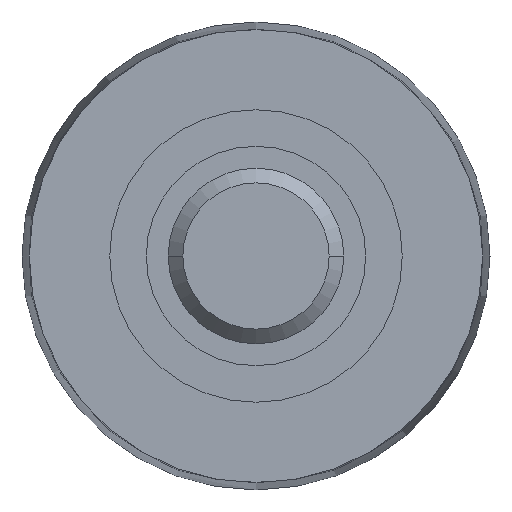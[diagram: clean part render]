
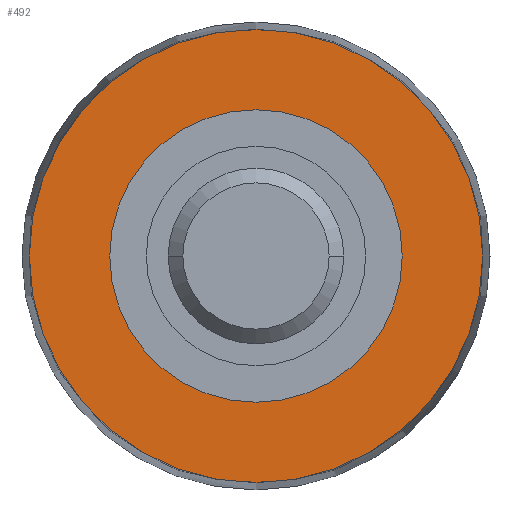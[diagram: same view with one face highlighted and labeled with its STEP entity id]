
A CAD part, left-side view. The second image highlights one B-rep face of the part: STEP entity #492.
In plain terms, the highlighted planar face has unit normal (-1, 0, 0).
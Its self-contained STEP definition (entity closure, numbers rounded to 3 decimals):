
#32 = CARTESIAN_POINT ( 'NONE',  ( -103., 10., 0. ) ) ;
#33 = CARTESIAN_POINT ( 'NONE',  ( -103., 0., 15.5 ) ) ;
#37 = CARTESIAN_POINT ( 'NONE',  ( -103., -10., 0. ) ) ;
#46 = DIRECTION ( 'NONE',  ( 0., 1., 0. ) ) ;
#47 = CARTESIAN_POINT ( 'NONE',  ( -103., 0., -15.5 ) ) ;
#48 = DIRECTION ( 'NONE',  ( 1., 0., 0. ) ) ;
#50 = CARTESIAN_POINT ( 'NONE',  ( -103., 0., 0. ) ) ;
#71 = AXIS2_PLACEMENT_3D ( 'NONE', #639, #640, #641 ) ;
#74 = AXIS2_PLACEMENT_3D ( 'NONE', #654, #655, #656 ) ;
#106 = EDGE_CURVE ( 'NONE', #370, #372, #282, .T. ) ;
#114 = EDGE_CURVE ( 'NONE', #372, #370, #269, .T. ) ;
#183 = CIRCLE ( 'NONE', #74, 15.5 ) ;
#194 = CIRCLE ( 'NONE', #71, 15.5 ) ;
#260 = FACE_BOUND ( 'NONE', #469, .T. ) ;
#263 = FACE_OUTER_BOUND ( 'NONE', #482, .T. ) ;
#269 = CIRCLE ( 'NONE', #736, 10. ) ;
#282 = CIRCLE ( 'NONE', #672, 10. ) ;
#364 = VERTEX_POINT ( 'NONE', #47 ) ;
#370 = VERTEX_POINT ( 'NONE', #37 ) ;
#371 = VERTEX_POINT ( 'NONE', #33 ) ;
#372 = VERTEX_POINT ( 'NONE', #32 ) ;
#379 = ORIENTED_EDGE ( 'NONE', *, *, #106, .T. ) ;
#435 = ORIENTED_EDGE ( 'NONE', *, *, #532, .T. ) ;
#436 = ORIENTED_EDGE ( 'NONE', *, *, #558, .T. ) ;
#456 = ORIENTED_EDGE ( 'NONE', *, *, #114, .T. ) ;
#469 = EDGE_LOOP ( 'NONE', ( #456, #379 ) ) ;
#482 = EDGE_LOOP ( 'NONE', ( #436, #435 ) ) ;
#492 = ADVANCED_FACE ( 'NONE', ( #260, #263 ), #728, .F. ) ;
#532 = EDGE_CURVE ( 'NONE', #371, #364, #194, .T. ) ;
#558 = EDGE_CURVE ( 'NONE', #364, #371, #183, .T. ) ;
#639 = CARTESIAN_POINT ( 'NONE',  ( -103., 0., 0. ) ) ;
#640 = DIRECTION ( 'NONE',  ( -1., 0., 0. ) ) ;
#641 = DIRECTION ( 'NONE',  ( 0., 0., 1. ) ) ;
#654 = CARTESIAN_POINT ( 'NONE',  ( -103., 0., 0. ) ) ;
#655 = DIRECTION ( 'NONE',  ( -1., 0., 0. ) ) ;
#656 = DIRECTION ( 'NONE',  ( 0., 0., 1. ) ) ;
#672 = AXIS2_PLACEMENT_3D ( 'NONE', #845, #833, #834 ) ;
#717 = CARTESIAN_POINT ( 'NONE',  ( -103., 16., 0. ) ) ;
#728 = PLANE ( 'NONE',  #739 ) ;
#730 = DIRECTION ( 'NONE',  ( 1., 0., 0. ) ) ;
#731 = DIRECTION ( 'NONE',  ( 0., 0., -1. ) ) ;
#736 = AXIS2_PLACEMENT_3D ( 'NONE', #50, #48, #46 ) ;
#739 = AXIS2_PLACEMENT_3D ( 'NONE', #717, #730, #731 ) ;
#833 = DIRECTION ( 'NONE',  ( 1., 0., 0. ) ) ;
#834 = DIRECTION ( 'NONE',  ( 0., 1., 0. ) ) ;
#845 = CARTESIAN_POINT ( 'NONE',  ( -103., 0., 0. ) ) ;
